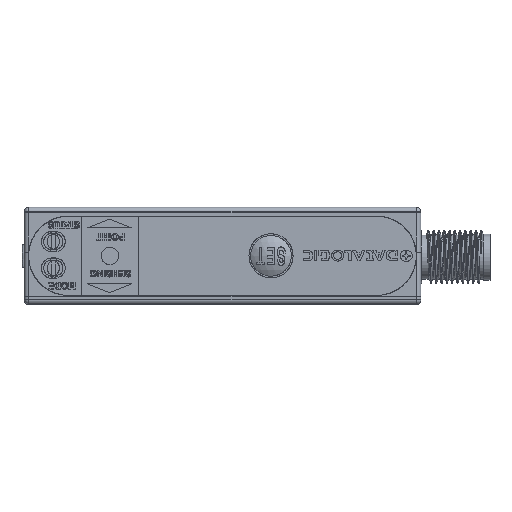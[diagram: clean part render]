
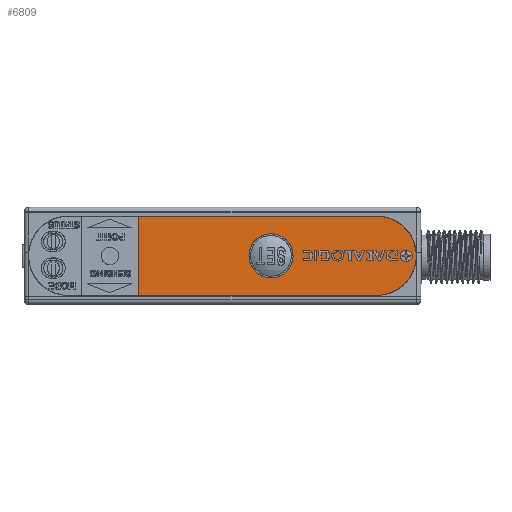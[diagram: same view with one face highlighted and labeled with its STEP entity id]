
A CAD part, top view. The second image highlights one B-rep face of the part: STEP entity #6809.
In plain terms, the highlighted planar face has unit normal (0, 0, 1).
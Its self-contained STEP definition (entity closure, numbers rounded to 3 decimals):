
#6809=ADVANCED_FACE('',(#8054),#7508,.T.);
#7508=PLANE('',#26720);
#8054=FACE_OUTER_BOUND('',#8707,.T.);
#8707=EDGE_LOOP('',(#10619,#10620,#10621,#10622,#10623));
#10619=ORIENTED_EDGE('',*,*,#17382,.T.);
#10620=ORIENTED_EDGE('',*,*,#17383,.T.);
#10621=ORIENTED_EDGE('',*,*,#17384,.T.);
#10622=ORIENTED_EDGE('',*,*,#17385,.T.);
#10623=ORIENTED_EDGE('',*,*,#17386,.T.);
#13994=VERTEX_POINT('',#38673);
#13995=VERTEX_POINT('',#38674);
#13996=VERTEX_POINT('',#38681);
#13997=VERTEX_POINT('',#38683);
#13998=VERTEX_POINT('',#38685);
#17382=EDGE_CURVE('',#13994,#13995,#23823,.T.);
#17383=EDGE_CURVE('',#13995,#13996,#23824,.T.);
#17384=EDGE_CURVE('',#13996,#13997,#20150,.T.);
#17385=EDGE_CURVE('',#13997,#13998,#20151,.T.);
#17386=EDGE_CURVE('',#13998,#13994,#20152,.T.);
#20150=LINE('',#38682,#22021);
#20151=LINE('',#38684,#22022);
#20152=LINE('',#38686,#22023);
#22021=VECTOR('',#28861,1.);
#22022=VECTOR('',#28862,1.);
#22023=VECTOR('',#28863,1.);
#23823=B_SPLINE_CURVE_WITH_KNOTS('',3,(#38667,#38668,#38669,#38670,#38671,
#38672),.UNSPECIFIED.,.F.,.F.,(4,2,4),(0.,0.5,1.),.UNSPECIFIED.);
#23824=B_SPLINE_CURVE_WITH_KNOTS('',3,(#38675,#38676,#38677,#38678,#38679,
#38680),.UNSPECIFIED.,.F.,.F.,(4,2,4),(0.,0.5,1.),.UNSPECIFIED.);
#26720=AXIS2_PLACEMENT_3D('',#38687,#28864,#28865);
#28861=DIRECTION('',(-1.,0.,0.));
#28862=DIRECTION('',(0.,-1.,0.));
#28863=DIRECTION('',(1.,0.,0.));
#28864=DIRECTION('',(0.,0.,1.));
#28865=DIRECTION('',(1.,0.,0.));
#38667=CARTESIAN_POINT('',(80.,1.999,55.));
#38668=CARTESIAN_POINT('',(82.361,1.999,55.));
#38669=CARTESIAN_POINT('',(84.701,2.972,55.));
#38670=CARTESIAN_POINT('',(88.027,6.297,55.));
#38671=CARTESIAN_POINT('',(89.,8.636,55.));
#38672=CARTESIAN_POINT('',(89.,10.999,55.));
#38673=CARTESIAN_POINT('',(80.,1.999,55.));
#38674=CARTESIAN_POINT('',(89.,10.999,55.));
#38675=CARTESIAN_POINT('',(89.,10.999,55.));
#38676=CARTESIAN_POINT('',(89.,13.36,55.));
#38677=CARTESIAN_POINT('',(88.026,15.7,55.));
#38678=CARTESIAN_POINT('',(84.702,19.025,55.));
#38679=CARTESIAN_POINT('',(82.363,19.999,55.));
#38680=CARTESIAN_POINT('',(80.,19.999,55.));
#38681=CARTESIAN_POINT('',(80.,19.999,55.));
#38682=CARTESIAN_POINT('',(45.,19.999,55.));
#38683=CARTESIAN_POINT('',(26.,19.999,55.));
#38684=CARTESIAN_POINT('',(26.,10.999,55.));
#38685=CARTESIAN_POINT('',(26.,1.999,55.));
#38686=CARTESIAN_POINT('',(45.,1.999,55.));
#38687=CARTESIAN_POINT('',(0.,1.999,55.));
